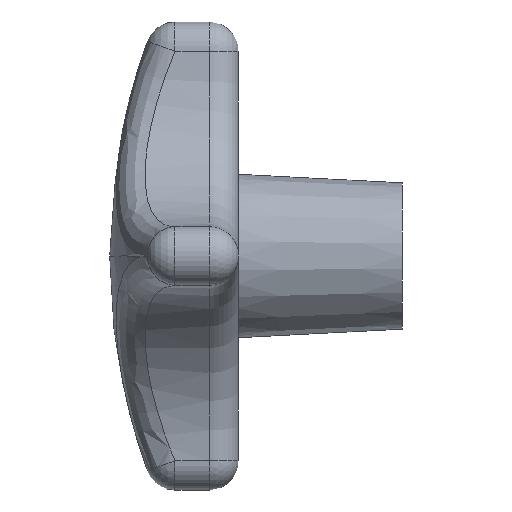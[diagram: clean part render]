
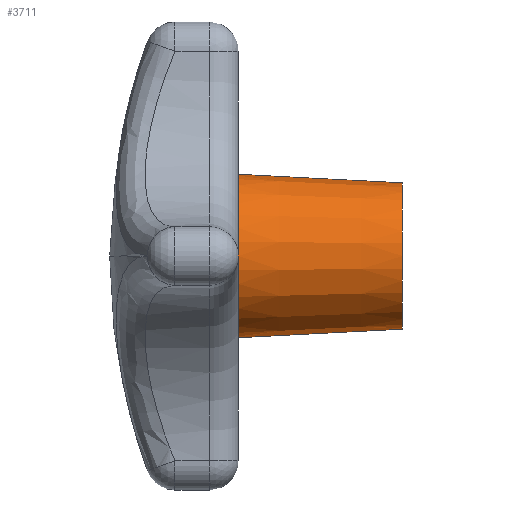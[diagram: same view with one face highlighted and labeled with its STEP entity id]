
A CAD part, left-side view. The second image highlights one B-rep face of the part: STEP entity #3711.
In plain terms, the highlighted conical face has half-angle 3 degrees and reference radius 12.5 mm.
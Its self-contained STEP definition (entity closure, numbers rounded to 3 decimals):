
#28 = ORIENTED_EDGE ( 'NONE', *, *, #97, .F. ) ;
#29 = ORIENTED_EDGE ( 'NONE', *, *, #30, .T. ) ;
#30 = EDGE_CURVE ( 'NONE', #104, #103, #2066, .T. ) ;
#50 = ORIENTED_EDGE ( 'NONE', *, *, #3712, .F. ) ;
#52 = ORIENTED_EDGE ( 'NONE', *, *, #82, .T. ) ;
#80 = VERTEX_POINT ( 'NONE', #2009 ) ;
#82 = EDGE_CURVE ( 'NONE', #103, #80, #2001, .T. ) ;
#97 = EDGE_CURVE ( 'NONE', #104, #98, #2036, .T. ) ;
#98 = VERTEX_POINT ( 'NONE', #2028 ) ;
#103 = VERTEX_POINT ( 'NONE', #2039 ) ;
#104 = VERTEX_POINT ( 'NONE', #2060 ) ;
#1700 = FACE_OUTER_BOUND ( 'NONE', #3710, .T. ) ;
#1740 = DIRECTION ( 'NONE',  ( 0., 0., 1. ) ) ;
#1741 = DIRECTION ( 'NONE',  ( 0., 1., 0. ) ) ;
#1742 = CARTESIAN_POINT ( 'NONE',  ( 0., 0., 0. ) ) ;
#1743 = AXIS2_PLACEMENT_3D ( 'NONE', #1742, #1741, #1740 ) ;
#1744 = CIRCLE ( 'NONE', #1743, 13.967 ) ;
#1745 = DIRECTION ( 'NONE',  ( 0., 0., 1. ) ) ;
#1746 = DIRECTION ( 'NONE',  ( 0., 1., 0. ) ) ;
#1747 = AXIS2_PLACEMENT_3D ( 'NONE', #1748, #1746, #1745 ) ;
#1748 = CARTESIAN_POINT ( 'NONE',  ( 0., -28., 0. ) ) ;
#1749 = CONICAL_SURFACE ( 'NONE', #1747, 12.5, 0.052 ) ;
#2001 = LINE ( 'NONE', #2002, #2008 ) ;
#2002 = CARTESIAN_POINT ( 'NONE',  ( 0., -28., 12.5 ) ) ;
#2007 = DIRECTION ( 'NONE',  ( 0., 0.999, 0.052 ) ) ;
#2008 = VECTOR ( 'NONE', #2007, 1000. ) ;
#2009 = CARTESIAN_POINT ( 'NONE',  ( 0., 0., 13.967 ) ) ;
#2028 = CARTESIAN_POINT ( 'NONE',  ( 0., 0., -13.967 ) ) ;
#2033 = DIRECTION ( 'NONE',  ( 0., 0.999, -0.052 ) ) ;
#2034 = VECTOR ( 'NONE', #2033, 1000. ) ;
#2035 = CARTESIAN_POINT ( 'NONE',  ( 0., -28., -12.5 ) ) ;
#2036 = LINE ( 'NONE', #2035, #2034 ) ;
#2039 = CARTESIAN_POINT ( 'NONE',  ( 0., -28., 12.5 ) ) ;
#2060 = CARTESIAN_POINT ( 'NONE',  ( 0., -28., -12.5 ) ) ;
#2063 = DIRECTION ( 'NONE',  ( 0., 1., 0. ) ) ;
#2064 = CARTESIAN_POINT ( 'NONE',  ( 0., -28., 0. ) ) ;
#2065 = AXIS2_PLACEMENT_3D ( 'NONE', #2064, #2063, #2071 ) ;
#2066 = CIRCLE ( 'NONE', #2065, 12.5 ) ;
#2071 = DIRECTION ( 'NONE',  ( 0., 0., 1. ) ) ;
#3710 = EDGE_LOOP ( 'NONE', ( #28, #29, #52, #50 ) ) ;
#3711 = ADVANCED_FACE ( 'NONE', ( #1700 ), #1749, .T. ) ;
#3712 = EDGE_CURVE ( 'NONE', #98, #80, #1744, .T. ) ;
